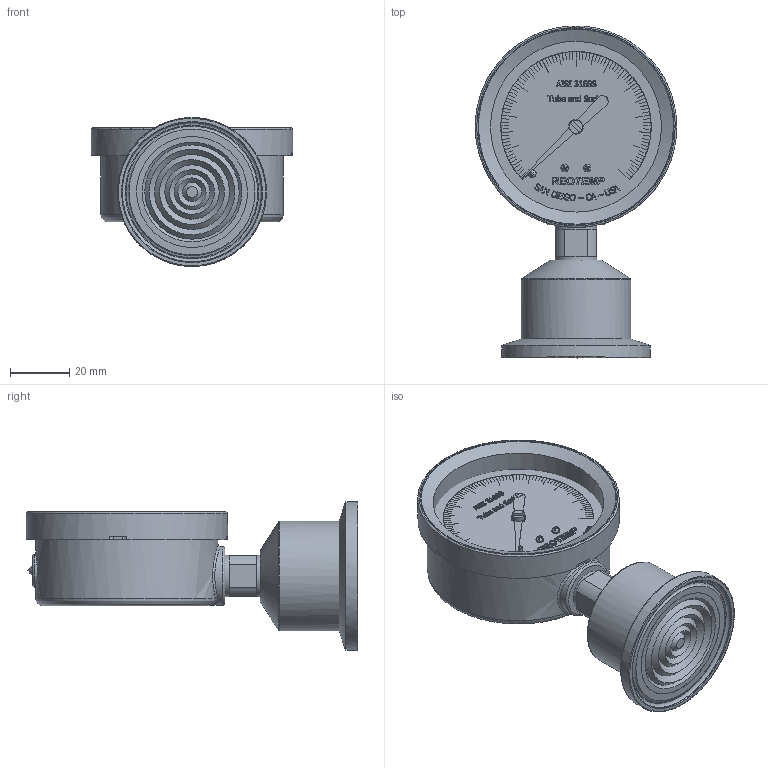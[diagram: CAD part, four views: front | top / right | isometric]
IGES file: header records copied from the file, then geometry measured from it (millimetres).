
Global section: file name: SG25-1in-Triclamp-IGS; native system: Autodesk Inventor 2018; preprocessor: unknown; author: MNeill; date: 20170925.145318; units: inch
Bounding box: 68.07 x 112.08 x 50.28 mm (x, y, z)
Volume: 81418.1 mm3; surface area: 38282.6 mm2
Topology: 25 solids, 26 shells, 1314 faces, 3616 edges, 2415 vertices
Faces by surface type: bspline 1314
